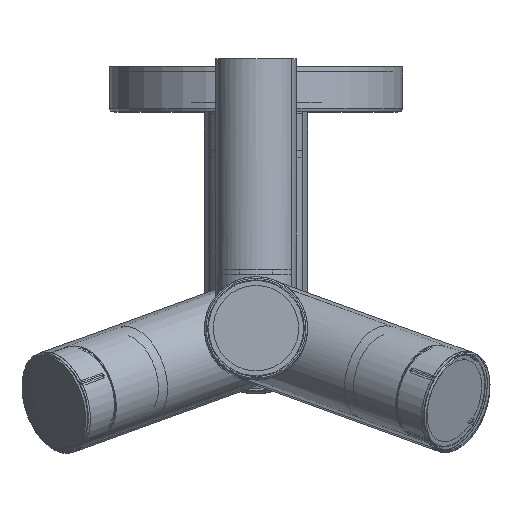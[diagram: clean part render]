
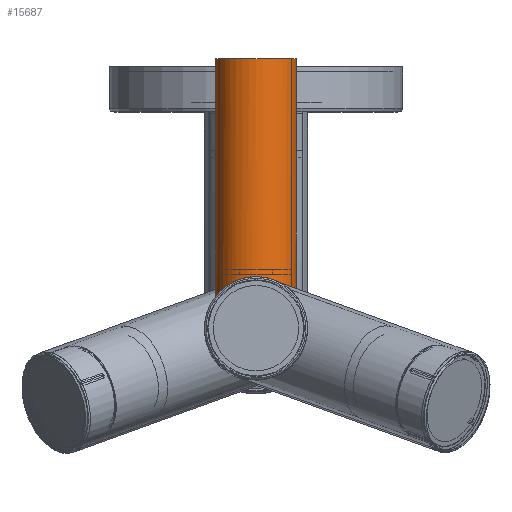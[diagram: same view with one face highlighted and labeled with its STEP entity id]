
A CAD part, top view. The second image highlights one B-rep face of the part: STEP entity #15687.
In plain terms, the highlighted cylindrical face has radius 12.5 mm (diameter 25 mm), a full revolution.
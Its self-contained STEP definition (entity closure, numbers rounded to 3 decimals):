
#1352=CIRCLE('',#17247,12.5);
#7217=ORIENTED_EDGE('',*,*,#9389,.F.);
#7218=ORIENTED_EDGE('',*,*,#9390,.T.);
#7219=ORIENTED_EDGE('',*,*,#9391,.T.);
#9389=EDGE_CURVE('',#10778,#10778,#11315,.T.);
#9390=EDGE_CURVE('',#10779,#10779,#11316,.T.);
#9391=EDGE_CURVE('',#10780,#10780,#1352,.T.);
#10778=VERTEX_POINT('',#28641);
#10779=VERTEX_POINT('',#28671);
#10780=VERTEX_POINT('',#28673);
#11315=B_SPLINE_CURVE_WITH_KNOTS('',3,(#28630,#28631,#28632,#28633,#28634,
#28635,#28636,#28637,#28638,#28639,#28640),.UNSPECIFIED.,.T.,.F.,(1,1,1,
1,1,1,1,1,1,1,1,1,1,1,1),(-0.005,-0.003,-0.002,
0.,0.002,0.003,0.005,
0.006,0.008,0.01,0.011,
0.013,0.015,0.016,0.018),
 .UNSPECIFIED.);
#11316=B_SPLINE_CURVE_WITH_KNOTS('',3,(#28642,#28643,#28644,#28645,#28646,
#28647,#28648,#28649,#28650,#28651,#28652,#28653,#28654,#28655,#28656,#28657,
#28658,#28659,#28660,#28661,#28662,#28663,#28664,#28665,#28666,#28667,#28668,
#28669,#28670),.UNSPECIFIED.,.T.,.F.,(1,1,1,1,1,1,1,1,1,1,1,1,1,1,1,1,1,
1,1,1,1,1,1,1,1,1,1,1,1,1,1,1,1),(-0.008,-0.005,
-0.003,0.,0.003,0.005,0.008,
0.01,0.015,0.018,0.021,
0.026,0.031,0.033,0.036,
0.039,0.041,0.044,0.046,
0.049,0.051,0.057,0.059,
0.062,0.067,0.072,0.075,
0.077,0.08,0.082,0.085,
0.087,0.09),.UNSPECIFIED.);
#12308=EDGE_LOOP('',(#7217));
#12309=EDGE_LOOP('',(#7218));
#12310=EDGE_LOOP('',(#7219));
#13370=FACE_BOUND('',#12308,.T.);
#13371=FACE_BOUND('',#12309,.T.);
#13372=FACE_BOUND('',#12310,.T.);
#13767=CYLINDRICAL_SURFACE('',#17246,12.5);
#15687=ADVANCED_FACE('',(#13370,#13371,#13372),#13767,.T.);
#17246=AXIS2_PLACEMENT_3D('',#28629,#21119,#21120);
#17247=AXIS2_PLACEMENT_3D('',#28672,#21121,#21122);
#21119=DIRECTION('',(-1.,0.,0.));
#21120=DIRECTION('',(0.,0.,1.));
#21121=DIRECTION('',(-1.,0.,0.));
#21122=DIRECTION('',(0.,1.,0.));
#28629=CARTESIAN_POINT('',(37.,0.,0.));
#28630=CARTESIAN_POINT('',(26.379,1.618,-12.415));
#28631=CARTESIAN_POINT('',(28.,2.291,-12.285));
#28632=CARTESIAN_POINT('',(29.62,1.619,-12.415));
#28633=CARTESIAN_POINT('',(30.29,0.002,-12.543));
#28634=CARTESIAN_POINT('',(29.62,-1.62,-12.415));
#28635=CARTESIAN_POINT('',(28.001,-2.29,-12.285));
#28636=CARTESIAN_POINT('',(26.382,-1.621,-12.414));
#28637=CARTESIAN_POINT('',(25.709,-0.002,-12.543));
#28638=CARTESIAN_POINT('',(26.379,1.618,-12.415));
#28639=CARTESIAN_POINT('',(28.,2.291,-12.285));
#28640=CARTESIAN_POINT('',(29.62,1.619,-12.415));
#28641=CARTESIAN_POINT('',(28.,2.067,-12.328));
#28642=CARTESIAN_POINT('',(-36.765,-12.317,2.586));
#28643=CARTESIAN_POINT('',(-37.117,-12.591,-0.002));
#28644=CARTESIAN_POINT('',(-36.767,-12.319,-2.576));
#28645=CARTESIAN_POINT('',(-35.906,-11.569,-4.933));
#28646=CARTESIAN_POINT('',(-34.823,-10.441,-7.004));
#28647=CARTESIAN_POINT('',(-33.307,-8.475,-9.417));
#28648=CARTESIAN_POINT('',(-31.932,-5.828,-11.276));
#28649=CARTESIAN_POINT('',(-31.131,-2.601,-12.317));
#28650=CARTESIAN_POINT('',(-30.842,0.865,-12.684));
#28651=CARTESIAN_POINT('',(-31.574,5.147,-11.76));
#28652=CARTESIAN_POINT('',(-33.31,8.479,-9.412));
#28653=CARTESIAN_POINT('',(-34.82,10.437,-7.01));
#28654=CARTESIAN_POINT('',(-35.91,11.572,-4.926));
#28655=CARTESIAN_POINT('',(-36.769,12.32,-2.574));
#28656=CARTESIAN_POINT('',(-37.117,12.591,0.018));
#28657=CARTESIAN_POINT('',(-36.764,12.316,2.588));
#28658=CARTESIAN_POINT('',(-35.902,11.565,4.943));
#28659=CARTESIAN_POINT('',(-34.819,10.436,7.01));
#28660=CARTESIAN_POINT('',(-33.304,8.47,9.421));
#28661=CARTESIAN_POINT('',(-31.931,5.825,11.278));
#28662=CARTESIAN_POINT('',(-31.131,2.599,12.317));
#28663=CARTESIAN_POINT('',(-30.843,-0.864,12.684));
#28664=CARTESIAN_POINT('',(-31.573,-5.144,11.761));
#28665=CARTESIAN_POINT('',(-33.307,-8.474,9.416));
#28666=CARTESIAN_POINT('',(-34.816,-10.432,7.016));
#28667=CARTESIAN_POINT('',(-35.905,-11.568,4.935));
#28668=CARTESIAN_POINT('',(-36.765,-12.317,2.586));
#28669=CARTESIAN_POINT('',(-37.117,-12.591,-0.002));
#28670=CARTESIAN_POINT('',(-36.767,-12.319,-2.576));
#28671=CARTESIAN_POINT('',(-37.,-12.5,0.));
#28672=CARTESIAN_POINT('',(37.,0.,0.));
#28673=CARTESIAN_POINT('',(37.,12.5,0.));
